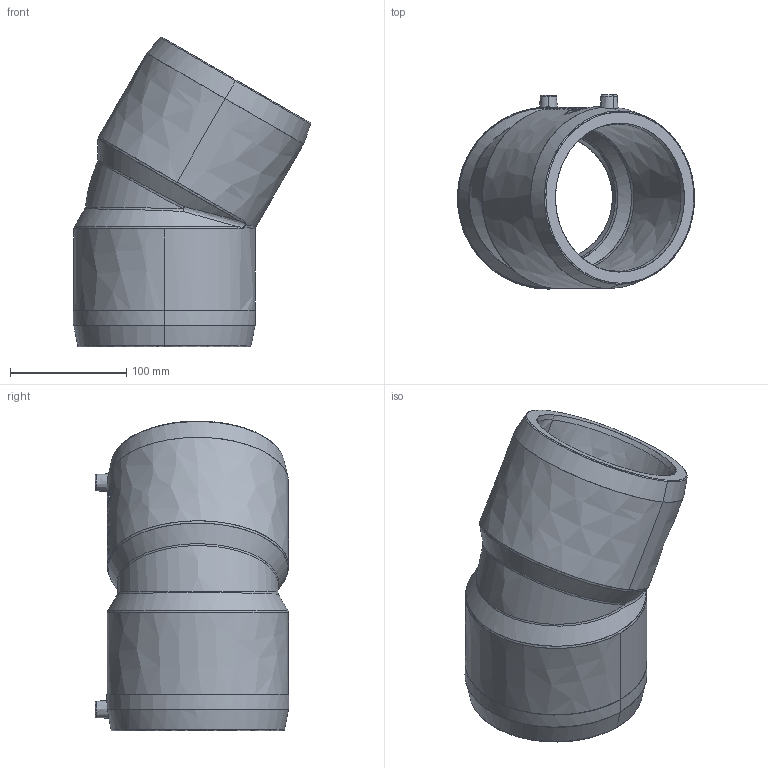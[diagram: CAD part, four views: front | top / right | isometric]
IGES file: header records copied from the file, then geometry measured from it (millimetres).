
Start section:  PTC IGES file: w30_d125_01.igs
Global section: file name: w30_d125_01.igs; native system: Pro/ENGINEER by Parametric Technology Corporation; preprocessor: 2011490; author: mtunjic; organization: Unknown; date: 20130812.095521; units: millimetre
Bounding box: 204.01 x 166.65 x 266.44 mm (x, y, z)
Surface area: 226025.5 mm2 (no closed solid volume)
Topology: 0 solids, 0 shells, 196 faces, 994 edges, 994 vertices
Faces by surface type: bspline 196
